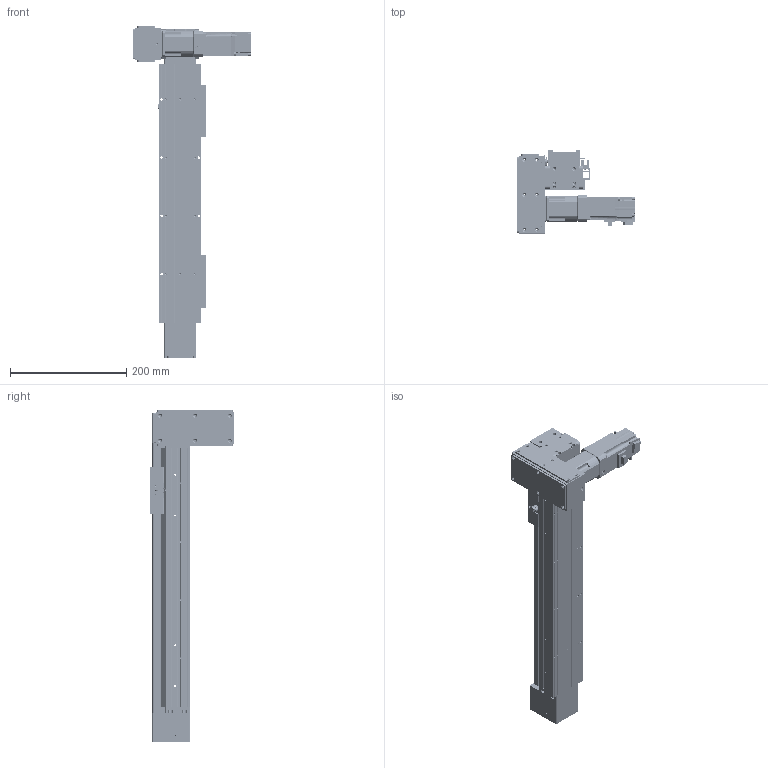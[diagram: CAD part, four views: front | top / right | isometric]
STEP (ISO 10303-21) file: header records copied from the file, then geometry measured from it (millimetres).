
FILE_DESCRIPTION(/* description */ (''),/* implementation_level */ '2;1');
FILE_NAME(/* name */ '\\192.168.0.160\disk1\HAN SHIN Master\B-설계부문\C-표준\B-2024년\BC02-표준도면\+로봇 개선표준도면\홈페이지 표준 도면\홈페이지 최종 작업 폴더\3D\HSB\HSB55\HSB55-DL1G-N-0300-R.stp',/* time_stamp */ '2025-06-19T20:37:23+09:00',/* author */ ('user'),/* organization */ (''),/* preprocessor_version */ 'ST-DEVELOPER v18.1',/* originating_system */ 'Autodesk Inventor 2022',/* authorisation */ '');
FILE_SCHEMA (('AUTOMOTIVE_DESIGN { 1 0 10303 214 3 1 1 }'));
Products named in the file (41): HSB55-DL1G-N-0500-R; HSB55 BASE; HSB55 TABLE; UPCOVER; HSB55 HOUSING (Connecting); HSB160 SHAFT-1; HSB55 FRONT HOUSIONG; HSB55 REAR SHAFT-1; HSB55 REAR SHAFT; HSB55 DOWN CLAMP; M4-25(렌치볼트); HSB55 HOUSING-R1; HSB55 TENSION PLATE; ISO 4032 - M4; HSB160 BEARING OVER; HSB55 UP CLAMP; HR45 SENSOR DOG; HR45 SENSOR RAIL; hsr_ftht_A-M6F_grease_nipple_joint; NIPPLE CAP(신규); SIDE COVER_대칭도; SIDE COVER; HR45 STOPPER; HSB55 END COVER; EC-6202ZZ; EC-6202ZZ Inner ring; EC-6202ZZ Outer ring; EC-6202ZZ St; EC-6202ZZ Ball; EC-6202ZZ B1; HSB55 ACRYL COVER-R1; HSB55 ACRYL COVER; EE_SX674A; PGX44-H-1_3; hg-kr13_; MOTOR PLATE-100W(MITSUBISHI); HR65-BELT COVER-COVER; HR65-BELT COVER-COVER3; HSB55 D MOTOR PLATE; HSB55 D BELT COVER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
Assembly tree (64 placements, depth 3):
  HSB55-DL1G-N-0500-R
    HSB55 BASE
    HSB55 TABLE
    UPCOVER
    HSB55 FRONT HOUSIONG  x2
    HSB55 HOUSING (Connecting)
    HSB160 SHAFT-1
    HSB55 REAR SHAFT-1
    #124499  x2
    HSB55 REAR SHAFT
    HSB55 DOWN CLAMP  x2
    HSB55 UP CLAMP  x2
    M4-25(렌치볼트)
    ISO 4032 - M4  x2
    HSB55 HOUSING-R1
    HSB55 TENSION PLATE  x2
    HSB160 BEARING OVER
    HR45 SENSOR DOG
    HR45 SENSOR RAIL  x2
    EE_SX674A  x3
    hsr_ftht_A-M6F_grease_nipple_joint
    NIPPLE CAP(신규)
    SIDE COVER_대칭도
    SIDE COVER
    HR45 STOPPER  x2
    HSB55 END COVER
    EC-6202ZZ  x2
      EC-6202ZZ Inner ring
      EC-6202ZZ Outer ring
      EC-6202ZZ B1
      EC-6202ZZ St
      EC-6202ZZ Ball
    HSB55 ACRYL COVER  x4
    HSB55 ACRYL COVER-R1
    PGX44-H-1_3
    hg-kr13_
    MOTOR PLATE-100W(MITSUBISHI)
    HR65-BELT COVER-COVER
    HR65-BELT COVER-COVER3
    HSB55 D MOTOR PLATE
    HSB55 D BELT COVER
    HR65-BELT COVER-COVER2  x2
Bounding box: 201.4 x 142.7 x 570 mm (x, y, z)
Volume: 1389149.2 mm3; surface area: 651350.3 mm2
Topology: 90 solids, 90 shells, 5038 faces, 13716 edges, 8999 vertices
Faces by surface type: plane 3500, cylinder 1184, cone 275, torus 35, sphere 22, bspline 22
Full cylindrical faces by diameter (mm): 1 x2, 2 x3, 2.013 x4, 2.459 x102, 2.5 x5, 3 x3, 3.242 x64, 3.3 x9, 3.4 x22, 3.5 x75, 4 x11, 4.134 x8, 4.2 x4, 4.5 x45, 4.917 x2, 5 x8, 5.5 x1, 5.6 x3, 5.9 x2, 6 x46, 6.5 x4, 7 x5, 7.5 x4, 8 x12, 8.2 x1, 9 x2, 9.5 x2, 10 x1, 11.5 x2, 12 x6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
Entity records: 124453 total; most frequent: CARTESIAN_POINT 25165, ORIENTED_EDGE 20306, DIRECTION 19914, EDGE_CURVE 10153, LINE 7384, VECTOR 7384, VERTEX_POINT 6699, AXIS2_PLACEMENT_3D 6265
